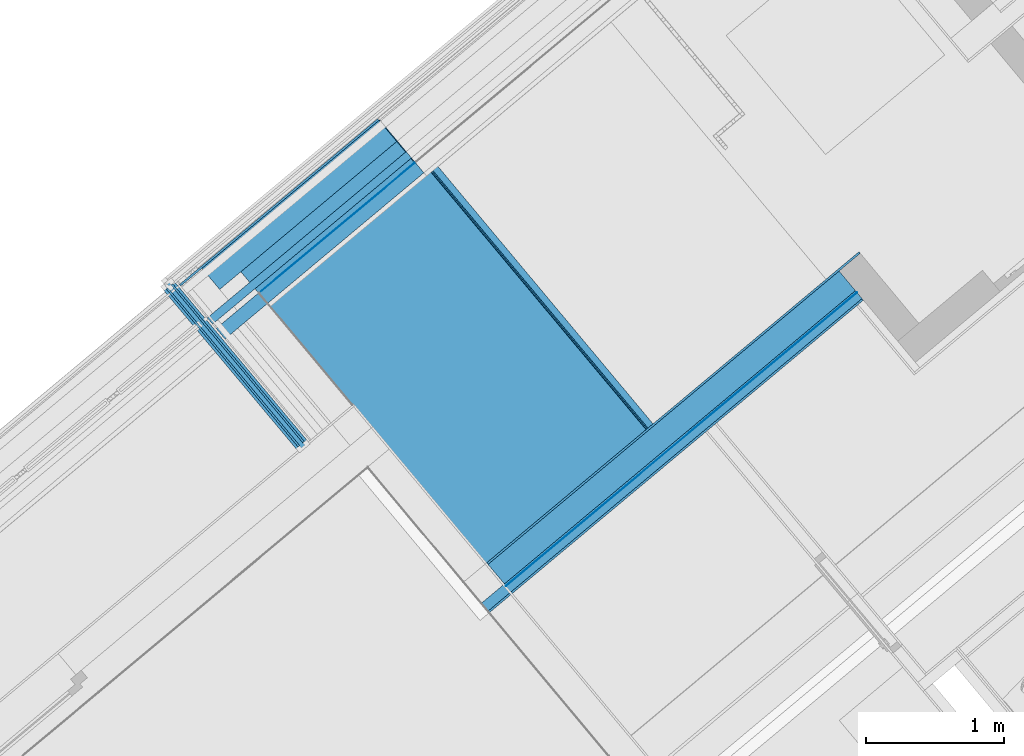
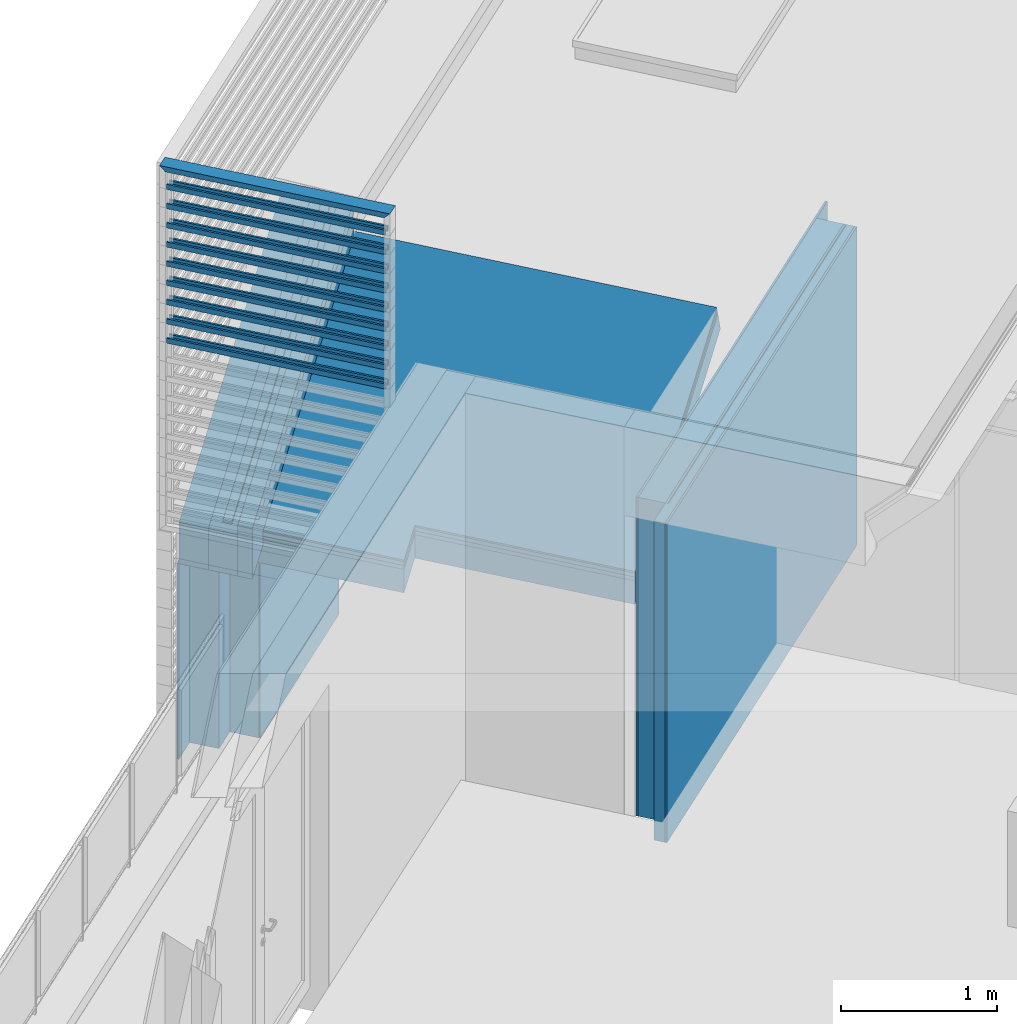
# One storey, part 22 of 50: 27 building element parts, 6 elements without a shape of their own.
"""IFC4 building model written with IfcOpenShell, lengths in metres."""

from ifc_helpers import new_model, entity, si_unit, converted_unit, derived_unit, direction, frame, origin_with_axes, place, context, subcontext, project, spatial, polygons, material, type_object, element, aggregate, save


model = new_model("IFC4")

# Units and contexts
model_context = context("Model", 3, precision=1e-05, world=origin_with_axes(), true_north=direction((0.0, 1.0)))
body_context = subcontext(model_context, "Body", "Model", "MODEL_VIEW")
ifc_project = project(units=[si_unit("LENGTHUNIT", "METRE"), si_unit("AREAUNIT", "SQUARE_METRE"), si_unit("VOLUMEUNIT", "CUBIC_METRE"), converted_unit("PLANEANGLEUNIT", "DEGREE", entity("IfcPlaneAngleMeasure", 0.0174532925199), si_unit("PLANEANGLEUNIT", "RADIAN"), dimensions=[0, 0, 0, 0, 0, 0, 0]), converted_unit("TIMEUNIT", "Year", entity("IfcTimeMeasure", 31556926.0), si_unit("TIMEUNIT", "SECOND"), dimensions=[0, 0, 1, 0, 0, 0, 0]), si_unit("MASSUNIT", "GRAM", prefix="KILO"), si_unit("THERMODYNAMICTEMPERATUREUNIT", "DEGREE_CELSIUS"), si_unit("LUMINOUSINTENSITYUNIT", "LUMEN"), si_unit("ENERGYUNIT", "JOULE", prefix="MEGA"), derived_unit("THERMALCONDUCTANCEUNIT", [(si_unit("POWERUNIT", "WATT"), 1), (si_unit("LENGTHUNIT", "METRE"), -1), (si_unit("THERMODYNAMICTEMPERATUREUNIT", "KELVIN"), -1)]), derived_unit("SPECIFICHEATCAPACITYUNIT", [(si_unit("ENERGYUNIT", "JOULE"), 1), (si_unit("MASSUNIT", "GRAM", prefix="KILO"), -1), (si_unit("THERMODYNAMICTEMPERATUREUNIT", "KELVIN"), -1)]), derived_unit("MASSDENSITYUNIT", [(si_unit("MASSUNIT", "GRAM", prefix="KILO"), 1), (si_unit("VOLUMEUNIT", "CUBIC_METRE"), -1)])], contexts=[model_context])

# Site, building, storey
site_placement = place(None, frame((-0.00153261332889, -0.00661245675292, 0.0), z_axis=(0.0, 0.0, 1.0), x_axis=(1.0, 0.0, 0.0)))
site = spatial("IfcSite", under=ifc_project, at=site_placement, Name="Gelände", CompositionType="ELEMENT")
building_placement = place(site_placement, origin_with_axes())
building = spatial("IfcBuilding", under=site, at=building_placement, Name="Gebäude", CompositionType="ELEMENT")
storey_placement = place(building_placement, frame((0.0, 0.0, 8.66), z_axis=(0.0, 0.0, 1.0), x_axis=(1.0, 0.0, 0.0)))
storey = spatial("IfcBuildingStorey", under=building, at=storey_placement, Name="DG2", CompositionType="ELEMENT", Elevation=8.66)

# Wall, building element parts
wall_type_1 = type_object("IfcWallType", Name="AW DG 220", PredefinedType="NOTDEFINED")
wall_1_placement = place(storey_placement, frame((0.519054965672, 22.8299362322, 0.0), z_axis=(0.0, 0.0, 1.0), x_axis=(-0.767364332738, -0.641211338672, 0.0)))
wall_1 = element("IfcWall", 1, at=wall_1_placement, inside=storey, type_object=wall_type_1, Name="Wand-003", PredefinedType="NOTDEFINED")
ifc_material_1 = material(Name="Zementputz")
building_element_part_1_placement = place(wall_1_placement, origin_with_axes())
building_element_part_1 = element("IfcBuildingElementPart", 2, at=building_element_part_1_placement, material=ifc_material_1, Name="Zementputz", PredefinedType="NOTDEFINED", context=body_context, shape_type="Tessellation", body=[
    polygons([(3.51523287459, 0.22, 0.0), (3.51523287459, 0.215, 0.0), (0.200000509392, 0.215, 0.0), (0.200000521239, 0.22, 0.0), (3.51523287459, 0.22, 2.49), (3.51523287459, 0.215, 2.49), (0.200000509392, 0.215, 2.49), (0.200000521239, 0.22, 2.49)], [[[1, 2, 3, 4]], [[1, 5, 6, 2]], [[2, 6, 7, 3]], [[4, 3, 7, 8]], [[5, 1, 4, 8]], [[6, 5, 8, 7]]], closed=True),
])
ifc_material_2 = material(Name="Stahlbeton Wand")
building_element_part_2_placement = place(wall_1_placement, origin_with_axes())
building_element_part_2 = element("IfcBuildingElementPart", 3, at=building_element_part_2_placement, material=ifc_material_2, Name="Stahlbeton Wand", PredefinedType="NOTDEFINED", context=body_context, shape_type="Tessellation", body=[
    polygons([(3.51523287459, 0.215, 0.0), (3.51523287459, 0.015, 0.0), (0.20000003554, 0.015, 0.0), (0.200000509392, 0.215, 0.0), (3.51523287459, 0.215, 2.49), (3.51523287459, 0.015, 2.49), (0.20000003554, 0.015, 2.49), (0.200000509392, 0.215, 2.49)], [[[1, 2, 3, 4]], [[1, 5, 6, 2]], [[2, 6, 7, 3]], [[4, 3, 7, 8]], [[5, 1, 4, 8]], [[6, 5, 8, 7]]], closed=True),
])
building_element_part_3_placement = place(wall_1_placement, origin_with_axes())
building_element_part_3 = element("IfcBuildingElementPart", 4, at=building_element_part_3_placement, material=ifc_material_1, Name="Zementputz", PredefinedType="NOTDEFINED", context=body_context, shape_type="Tessellation", body=[
    polygons([(3.51523287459, 0.015, 0.0), (3.51523287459, 0.0, 0.0), (0.0, 0.0, 0.0), (3.55389637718e-08, 0.015, 0.0), (3.51523287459, 0.015, 2.49), (3.51523287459, 0.0, 2.49), (0.0, 0.0, 2.49), (3.55389619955e-08, 0.015, 2.49)], [[[1, 2, 3, 4]], [[1, 5, 6, 2]], [[2, 6, 7, 3]], [[4, 3, 7, 8]], [[5, 1, 4, 8]], [[6, 5, 8, 7]]], closed=True),
])
aggregate(wall_1, [building_element_part_1, building_element_part_2, building_element_part_3])

wall_type_2 = type_object("IfcWallType", Name="LB 9,0 cm einfache Vorsatzschale  90", PredefinedType="NOTDEFINED")
wall_2_placement = place(storey_placement, frame((-2.21545317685, 20.284664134, 0.0), z_axis=(0.0, 0.0, 1.0), x_axis=(0.767406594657, 0.641160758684, 0.0)))
wall_2 = element("IfcWall", 5, at=wall_2_placement, inside=storey, type_object=wall_type_2, Name="Wand-006", PredefinedType="NOTDEFINED")
ifc_material_3 = material(Name="Mineralwolle weich")
building_element_part_4_placement = place(wall_2_placement, origin_with_axes())
building_element_part_4 = element("IfcBuildingElementPart", 6, at=building_element_part_4_placement, material=ifc_material_3, Name="Mineralwolle weich", PredefinedType="NOTDEFINED", context=body_context, shape_type="Tessellation", body=[
    polygons([(3.53042564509, -0.075, 2.48999999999), (3.53042087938, 0.0, 2.48999999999), (0.0, 0.0, 2.48999999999), (0.0, -0.075, 2.48999999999), (3.53042564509, -0.075, 0.0), (3.53042087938, 0.0, 0.0), (0.0, 0.0, 0.0), (0.0, -0.075, 0.0)], [[[1, 2, 3, 4]], [[2, 1, 5, 6]], [[2, 6, 7, 3]], [[8, 4, 3, 7]], [[5, 1, 4, 8]], [[6, 5, 8, 7]]], closed=True),
])
ifc_material_4 = material(Name="Gipskarton")
building_element_part_5_placement = place(wall_2_placement, origin_with_axes())
building_element_part_5 = element("IfcBuildingElementPart", 7, at=building_element_part_5_placement, material=ifc_material_4, Name="Gipskarton", PredefinedType="NOTDEFINED", context=body_context, shape_type="Tessellation", body=[
    polygons([(3.53042564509, -0.075, 2.48999999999), (0.0, -0.075, 2.48999999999), (0.0, -0.09, 2.48999999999), (3.53042659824, -0.09, 2.48999999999), (3.53042564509, -0.075, 0.0), (0.0, -0.075, 0.0), (0.0, -0.09, 0.0), (3.53042659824, -0.09, 0.0)], [[[1, 2, 3, 4]], [[5, 6, 2, 1]], [[3, 2, 6, 7]], [[4, 3, 7, 8]], [[4, 8, 5, 1]], [[8, 7, 6, 5]]], closed=True),
])
aggregate(wall_2, [building_element_part_4, building_element_part_5])

# Space
space_1_placement = place(storey_placement, frame((-4.06558748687, 22.1637970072, 0.22), z_axis=(0.0, 0.0, 1.0), x_axis=(-0.767365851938, -0.641209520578, 0.0)))
space_1 = spatial("IfcSpace", under=storey, at=space_1_placement, CompositionType="ELEMENT", PredefinedType="NOTDEFINED")

# Curtain wall, building element parts
curtain_wall_type = type_object("IfcCurtainWallType", Name="Fassadentyp", PredefinedType="NOTDEFINED")
curtain_wall_placement = place(space_1_placement, frame((0.05, 0.162364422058, 1.65), z_axis=(0.0, 0.0, 1.0), x_axis=(-0.767365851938, 0.641209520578, 0.0)))
curtain_wall = element("IfcCurtainWall", 8, at=curtain_wall_placement, inside=space_1, type_object=curtain_wall_type, Name="Fassade-001", PredefinedType="NOTDEFINED")
ifc_material_5 = material(Name="Blech")
building_element_part_6_placement = place(curtain_wall_placement, origin_with_axes())
building_element_part_6 = element("IfcBuildingElementPart", 9, at=building_element_part_6_placement, material=ifc_material_5, Name="Blech", PredefinedType="NOTDEFINED", context=body_context, shape_type="Tessellation", body=[
    polygons([(-0.466268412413, 0.581398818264, 1.45000002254), (-0.466268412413, 0.581398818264, 1.43000002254), (0.489289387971, -0.562162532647, 1.43000002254), (0.489289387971, -0.562162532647, 1.45000002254), (0.489289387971, -0.562162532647, 1.47000002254), (-0.466268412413, 0.581398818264, 1.47000002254), (-0.454757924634, 0.591016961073, 1.47000002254), (-0.454757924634, 0.591016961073, 1.43000002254), (0.50079987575, -0.552544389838, 1.43000002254), (0.50079987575, -0.552544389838, 1.47000002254)], [[[1, 2, 3, 4, 5, 6]], [[2, 1, 6, 7, 8]], [[3, 2, 8, 9]], [[4, 3, 9, 10, 5]], [[5, 10, 7, 6]], [[9, 8, 7, 10]]], closed=True),
    polygons([(0.466268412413, -0.581398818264, 1.43000002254), (0.466268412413, -0.581398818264, 1.45000002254), (0.466268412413, -0.581398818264, 1.47000002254), (0.454757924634, -0.591016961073, 1.47000002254), (0.454757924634, -0.591016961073, 1.43000002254), (-0.489289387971, 0.562162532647, 1.43000002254), (-0.489289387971, 0.562162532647, 1.45000002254), (-0.489289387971, 0.562162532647, 1.47000002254), (-0.500799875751, 0.552544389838, 1.47000002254), (-0.500799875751, 0.552544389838, 1.43000002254)], [[[1, 2, 3, 4, 5]], [[2, 1, 6, 7, 8, 3]], [[8, 9, 4, 3]], [[4, 9, 10, 5]], [[6, 1, 5, 10]], [[7, 6, 10, 9, 8]]], closed=True),
])
building_element_part_7_placement = place(curtain_wall_placement, origin_with_axes())
building_element_part_7 = element("IfcBuildingElementPart", 10, at=building_element_part_7_placement, material=ifc_material_5, Name="Blech", PredefinedType="NOTDEFINED", context=body_context, shape_type="Tessellation", body=[
    polygons([(-0.466268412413, 0.581398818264, 1.60000002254), (-0.466268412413, 0.581398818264, 1.58000002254), (0.489289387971, -0.562162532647, 1.58000002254), (0.489289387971, -0.562162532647, 1.60000002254), (0.489289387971, -0.562162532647, 1.62000002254), (-0.466268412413, 0.581398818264, 1.62000002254), (-0.454757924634, 0.591016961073, 1.62000002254), (-0.454757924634, 0.591016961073, 1.58000002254), (0.50079987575, -0.552544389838, 1.58000002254), (0.50079987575, -0.552544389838, 1.62000002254)], [[[1, 2, 3, 4, 5, 6]], [[2, 1, 6, 7, 8]], [[3, 2, 8, 9]], [[4, 3, 9, 10, 5]], [[5, 10, 7, 6]], [[9, 8, 7, 10]]], closed=True),
    polygons([(0.466268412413, -0.581398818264, 1.58000002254), (0.466268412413, -0.581398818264, 1.60000002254), (0.466268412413, -0.581398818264, 1.62000002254), (0.454757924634, -0.591016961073, 1.62000002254), (0.454757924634, -0.591016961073, 1.58000002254), (-0.489289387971, 0.562162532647, 1.58000002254), (-0.489289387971, 0.562162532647, 1.60000002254), (-0.489289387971, 0.562162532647, 1.62000002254), (-0.500799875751, 0.552544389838, 1.62000002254), (-0.500799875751, 0.552544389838, 1.58000002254)], [[[1, 2, 3, 4, 5]], [[2, 1, 6, 7, 8, 3]], [[8, 9, 4, 3]], [[4, 9, 10, 5]], [[6, 1, 5, 10]], [[7, 6, 10, 9, 8]]], closed=True),
])
building_element_part_8_placement = place(curtain_wall_placement, origin_with_axes())
building_element_part_8 = element("IfcBuildingElementPart", 11, at=building_element_part_8_placement, material=ifc_material_5, Name="Blech", PredefinedType="NOTDEFINED", context=body_context, shape_type="Tessellation", body=[
    polygons([(-0.466268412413, 0.581398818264, 1.75000002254), (-0.466268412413, 0.581398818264, 1.73000002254), (0.489289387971, -0.562162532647, 1.73000002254), (0.489289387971, -0.562162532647, 1.75000002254), (0.489289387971, -0.562162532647, 1.77000002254), (-0.466268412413, 0.581398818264, 1.77000002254), (-0.454757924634, 0.591016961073, 1.77000002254), (-0.454757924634, 0.591016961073, 1.73000002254), (0.50079987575, -0.552544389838, 1.73000002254), (0.50079987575, -0.552544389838, 1.77000002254)], [[[1, 2, 3, 4, 5, 6]], [[2, 1, 6, 7, 8]], [[3, 2, 8, 9]], [[4, 3, 9, 10, 5]], [[5, 10, 7, 6]], [[9, 8, 7, 10]]], closed=True),
    polygons([(0.466268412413, -0.581398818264, 1.73000002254), (0.466268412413, -0.581398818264, 1.75000002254), (0.466268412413, -0.581398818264, 1.77000002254), (0.454757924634, -0.591016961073, 1.77000002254), (0.454757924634, -0.591016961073, 1.73000002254), (-0.489289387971, 0.562162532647, 1.73000002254), (-0.489289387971, 0.562162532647, 1.75000002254), (-0.489289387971, 0.562162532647, 1.77000002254), (-0.500799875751, 0.552544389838, 1.77000002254), (-0.500799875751, 0.552544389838, 1.73000002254)], [[[1, 2, 3, 4, 5]], [[2, 1, 6, 7, 8, 3]], [[8, 9, 4, 3]], [[4, 9, 10, 5]], [[6, 1, 5, 10]], [[7, 6, 10, 9, 8]]], closed=True),
])
building_element_part_9_placement = place(curtain_wall_placement, origin_with_axes())
building_element_part_9 = element("IfcBuildingElementPart", 12, at=building_element_part_9_placement, material=ifc_material_5, Name="Blech", PredefinedType="NOTDEFINED", context=body_context, shape_type="Tessellation", body=[
    polygons([(-0.466268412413, 0.581398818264, 1.90000002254), (-0.466268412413, 0.581398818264, 1.88000002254), (0.489289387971, -0.562162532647, 1.88000002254), (0.489289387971, -0.562162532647, 1.90000002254), (0.489289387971, -0.562162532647, 1.92000002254), (-0.466268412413, 0.581398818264, 1.92000002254), (-0.454757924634, 0.591016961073, 1.92000002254), (-0.454757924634, 0.591016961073, 1.88000002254), (0.50079987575, -0.552544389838, 1.88000002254), (0.50079987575, -0.552544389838, 1.92000002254)], [[[1, 2, 3, 4, 5, 6]], [[2, 1, 6, 7, 8]], [[3, 2, 8, 9]], [[4, 3, 9, 10, 5]], [[5, 10, 7, 6]], [[9, 8, 7, 10]]], closed=True),
    polygons([(0.466268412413, -0.581398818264, 1.88000002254), (0.466268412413, -0.581398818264, 1.90000002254), (0.466268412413, -0.581398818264, 1.92000002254), (0.454757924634, -0.591016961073, 1.92000002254), (0.454757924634, -0.591016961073, 1.88000002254), (-0.489289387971, 0.562162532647, 1.88000002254), (-0.489289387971, 0.562162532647, 1.90000002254), (-0.489289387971, 0.562162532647, 1.92000002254), (-0.500799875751, 0.552544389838, 1.92000002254), (-0.500799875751, 0.552544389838, 1.88000002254)], [[[1, 2, 3, 4, 5]], [[2, 1, 6, 7, 8, 3]], [[8, 9, 4, 3]], [[4, 9, 10, 5]], [[6, 1, 5, 10]], [[7, 6, 10, 9, 8]]], closed=True),
])
building_element_part_10_placement = place(curtain_wall_placement, origin_with_axes())
building_element_part_10 = element("IfcBuildingElementPart", 13, at=building_element_part_10_placement, material=ifc_material_5, Name="Blech", PredefinedType="NOTDEFINED", context=body_context, shape_type="Tessellation", body=[
    polygons([(-0.466268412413, 0.581398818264, 2.05000002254), (-0.466268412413, 0.581398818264, 2.03000002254), (0.489289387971, -0.562162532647, 2.03000002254), (0.489289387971, -0.562162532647, 2.05000002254), (0.489289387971, -0.562162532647, 2.07000002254), (-0.466268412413, 0.581398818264, 2.07000002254), (-0.454757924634, 0.591016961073, 2.07000002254), (-0.454757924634, 0.591016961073, 2.03000002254), (0.50079987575, -0.552544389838, 2.03000002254), (0.50079987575, -0.552544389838, 2.07000002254)], [[[1, 2, 3, 4, 5, 6]], [[2, 1, 6, 7, 8]], [[3, 2, 8, 9]], [[4, 3, 9, 10, 5]], [[5, 10, 7, 6]], [[9, 8, 7, 10]]], closed=True),
    polygons([(0.466268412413, -0.581398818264, 2.03000002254), (0.466268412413, -0.581398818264, 2.05000002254), (0.466268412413, -0.581398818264, 2.07000002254), (0.454757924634, -0.591016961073, 2.07000002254), (0.454757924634, -0.591016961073, 2.03000002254), (-0.489289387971, 0.562162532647, 2.03000002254), (-0.489289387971, 0.562162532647, 2.05000002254), (-0.489289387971, 0.562162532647, 2.07000002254), (-0.500799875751, 0.552544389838, 2.07000002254), (-0.500799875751, 0.552544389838, 2.03000002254)], [[[1, 2, 3, 4, 5]], [[2, 1, 6, 7, 8, 3]], [[8, 9, 4, 3]], [[4, 9, 10, 5]], [[6, 1, 5, 10]], [[7, 6, 10, 9, 8]]], closed=True),
])
building_element_part_11_placement = place(curtain_wall_placement, origin_with_axes())
building_element_part_11 = element("IfcBuildingElementPart", 14, at=building_element_part_11_placement, material=ifc_material_5, Name="Blech", PredefinedType="NOTDEFINED", context=body_context, shape_type="Tessellation", body=[
    polygons([(-0.466268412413, 0.581398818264, 2.20000002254), (-0.466268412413, 0.581398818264, 2.18000002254), (0.489289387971, -0.562162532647, 2.18000002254), (0.489289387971, -0.562162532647, 2.20000002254), (0.489289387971, -0.562162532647, 2.22000002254), (-0.466268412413, 0.581398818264, 2.22000002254), (-0.454757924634, 0.591016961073, 2.22000002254), (-0.454757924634, 0.591016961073, 2.18000002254), (0.50079987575, -0.552544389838, 2.18000002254), (0.50079987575, -0.552544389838, 2.22000002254)], [[[1, 2, 3, 4, 5, 6]], [[2, 1, 6, 7, 8]], [[3, 2, 8, 9]], [[4, 3, 9, 10, 5]], [[5, 10, 7, 6]], [[9, 8, 7, 10]]], closed=True),
    polygons([(0.466268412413, -0.581398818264, 2.18000002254), (0.466268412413, -0.581398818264, 2.20000002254), (0.466268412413, -0.581398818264, 2.22000002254), (0.454757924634, -0.591016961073, 2.22000002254), (0.454757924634, -0.591016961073, 2.18000002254), (-0.489289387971, 0.562162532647, 2.18000002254), (-0.489289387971, 0.562162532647, 2.20000002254), (-0.489289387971, 0.562162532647, 2.22000002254), (-0.500799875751, 0.552544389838, 2.22000002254), (-0.500799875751, 0.552544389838, 2.18000002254)], [[[1, 2, 3, 4, 5]], [[2, 1, 6, 7, 8, 3]], [[8, 9, 4, 3]], [[4, 9, 10, 5]], [[6, 1, 5, 10]], [[7, 6, 10, 9, 8]]], closed=True),
])
building_element_part_12_placement = place(curtain_wall_placement, origin_with_axes())
building_element_part_12 = element("IfcBuildingElementPart", 15, at=building_element_part_12_placement, material=ifc_material_5, Name="Blech", PredefinedType="NOTDEFINED", context=body_context, shape_type="Tessellation", body=[
    polygons([(-0.466268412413, 0.581398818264, 2.35000002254), (-0.466268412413, 0.581398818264, 2.33000002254), (0.489289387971, -0.562162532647, 2.33000002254), (0.489289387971, -0.562162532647, 2.35000002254), (0.489289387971, -0.562162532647, 2.37000002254), (-0.466268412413, 0.581398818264, 2.37000002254), (-0.454757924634, 0.591016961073, 2.37000002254), (-0.454757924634, 0.591016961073, 2.33000002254), (0.50079987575, -0.552544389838, 2.33000002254), (0.50079987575, -0.552544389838, 2.37000002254)], [[[1, 2, 3, 4, 5, 6]], [[2, 1, 6, 7, 8]], [[3, 2, 8, 9]], [[4, 3, 9, 10, 5]], [[5, 10, 7, 6]], [[9, 8, 7, 10]]], closed=True),
    polygons([(0.466268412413, -0.581398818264, 2.33000002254), (0.466268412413, -0.581398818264, 2.35000002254), (0.466268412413, -0.581398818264, 2.37000002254), (0.454757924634, -0.591016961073, 2.37000002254), (0.454757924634, -0.591016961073, 2.33000002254), (-0.489289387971, 0.562162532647, 2.33000002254), (-0.489289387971, 0.562162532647, 2.35000002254), (-0.489289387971, 0.562162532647, 2.37000002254), (-0.500799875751, 0.552544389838, 2.37000002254), (-0.500799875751, 0.552544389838, 2.33000002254)], [[[1, 2, 3, 4, 5]], [[2, 1, 6, 7, 8, 3]], [[8, 9, 4, 3]], [[4, 9, 10, 5]], [[6, 1, 5, 10]], [[7, 6, 10, 9, 8]]], closed=True),
])
building_element_part_13_placement = place(curtain_wall_placement, origin_with_axes())
building_element_part_13 = element("IfcBuildingElementPart", 16, at=building_element_part_13_placement, material=ifc_material_5, Name="Blech", PredefinedType="NOTDEFINED", context=body_context, shape_type="Tessellation", body=[
    polygons([(-0.466268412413, 0.581398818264, 2.50000002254), (-0.466268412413, 0.581398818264, 2.48000002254), (0.489289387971, -0.562162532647, 2.48000002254), (0.489289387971, -0.562162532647, 2.50000002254), (0.489289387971, -0.562162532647, 2.52000002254), (-0.466268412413, 0.581398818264, 2.52000002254), (-0.454757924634, 0.591016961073, 2.52000002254), (-0.454757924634, 0.591016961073, 2.48000002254), (0.50079987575, -0.552544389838, 2.48000002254), (0.50079987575, -0.552544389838, 2.52000002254)], [[[1, 2, 3, 4, 5, 6]], [[2, 1, 6, 7, 8]], [[3, 2, 8, 9]], [[4, 3, 9, 10, 5]], [[5, 10, 7, 6]], [[9, 8, 7, 10]]], closed=True),
    polygons([(0.466268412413, -0.581398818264, 2.48000002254), (0.466268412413, -0.581398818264, 2.50000002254), (0.466268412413, -0.581398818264, 2.52000002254), (0.454757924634, -0.591016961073, 2.52000002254), (0.454757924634, -0.591016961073, 2.48000002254), (-0.489289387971, 0.562162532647, 2.48000002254), (-0.489289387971, 0.562162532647, 2.50000002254), (-0.489289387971, 0.562162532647, 2.52000002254), (-0.500799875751, 0.552544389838, 2.52000002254), (-0.500799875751, 0.552544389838, 2.48000002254)], [[[1, 2, 3, 4, 5]], [[2, 1, 6, 7, 8, 3]], [[8, 9, 4, 3]], [[4, 9, 10, 5]], [[6, 1, 5, 10]], [[7, 6, 10, 9, 8]]], closed=True),
])
building_element_part_14_placement = place(curtain_wall_placement, origin_with_axes())
building_element_part_14 = element("IfcBuildingElementPart", 17, at=building_element_part_14_placement, material=ifc_material_5, Name="Blech", PredefinedType="NOTDEFINED", context=body_context, shape_type="Tessellation", body=[
    polygons([(-0.466268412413, 0.581398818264, 2.65000002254), (-0.466268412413, 0.581398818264, 2.63000002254), (0.489289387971, -0.562162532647, 2.63000002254), (0.489289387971, -0.562162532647, 2.65000002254), (0.489289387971, -0.562162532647, 2.67000002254), (-0.466268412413, 0.581398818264, 2.67000002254), (-0.454757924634, 0.591016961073, 2.67000002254), (-0.454757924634, 0.591016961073, 2.63000002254), (0.50079987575, -0.552544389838, 2.63000002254), (0.50079987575, -0.552544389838, 2.67000002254)], [[[1, 2, 3, 4, 5, 6]], [[2, 1, 6, 7, 8]], [[3, 2, 8, 9]], [[4, 3, 9, 10, 5]], [[5, 10, 7, 6]], [[9, 8, 7, 10]]], closed=True),
    polygons([(0.466268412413, -0.581398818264, 2.63000002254), (0.466268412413, -0.581398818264, 2.65000002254), (0.466268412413, -0.581398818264, 2.67000002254), (0.454757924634, -0.591016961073, 2.67000002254), (0.454757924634, -0.591016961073, 2.63000002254), (-0.489289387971, 0.562162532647, 2.63000002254), (-0.489289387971, 0.562162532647, 2.65000002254), (-0.489289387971, 0.562162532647, 2.67000002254), (-0.500799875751, 0.552544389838, 2.67000002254), (-0.500799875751, 0.552544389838, 2.63000002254)], [[[1, 2, 3, 4, 5]], [[2, 1, 6, 7, 8, 3]], [[8, 9, 4, 3]], [[4, 9, 10, 5]], [[6, 1, 5, 10]], [[7, 6, 10, 9, 8]]], closed=True),
])
building_element_part_15_placement = place(curtain_wall_placement, origin_with_axes())
building_element_part_15 = element("IfcBuildingElementPart", 18, at=building_element_part_15_placement, material=ifc_material_5, Name="Blech", PredefinedType="NOTDEFINED", context=body_context, shape_type="Tessellation", body=[
    polygons([(0.502113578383, -0.577509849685, 2.80000002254), (0.489289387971, -0.562162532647, 2.78000002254), (0.516147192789, -0.539720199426, 2.78000002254), (0.541795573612, -0.570414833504, 2.82000002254), (0.465058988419, -0.634535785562, 2.82000002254), (0.439410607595, -0.603841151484, 2.78000002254), (0.466268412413, -0.581398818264, 2.78000002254), (0.479092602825, -0.596746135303, 2.80000002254), (-0.479092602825, 0.596746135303, 2.80000002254), (-0.466268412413, 0.581398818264, 2.78000002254), (-0.439410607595, 0.603841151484, 2.78000002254), (-0.465058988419, 0.634535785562, 2.82000002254), (-0.541795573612, 0.570414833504, 2.82000002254), (-0.516147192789, 0.539720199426, 2.78000002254), (-0.489289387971, 0.562162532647, 2.78000002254), (-0.502113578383, 0.577509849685, 2.80000002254)], [[[1, 2, 3, 4, 5, 6, 7, 8]], [[1, 9, 10, 2]], [[10, 11, 3, 2]], [[3, 11, 12, 4]], [[4, 12, 13, 5]], [[5, 13, 14, 6]], [[7, 6, 14, 15]], [[15, 16, 8, 7]], [[8, 16, 9, 1]], [[9, 16, 15, 14, 13, 12, 11, 10]]], closed=True),
])
aggregate(curtain_wall, [building_element_part_6, building_element_part_7, building_element_part_8, building_element_part_9, building_element_part_10, building_element_part_11, building_element_part_12, building_element_part_13, building_element_part_14, building_element_part_15])

# Space
space_2_placement = place(storey_placement, frame((0.280300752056, 22.6307267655, 0.22), z_axis=(0.0, 0.0, 1.0), x_axis=(-0.641244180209, 0.767336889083, 0.0)))
space_2 = spatial("IfcSpace", under=storey, at=space_2_placement, CompositionType="ELEMENT", PredefinedType="NOTDEFINED")

# Roof, building element parts
roof_type = type_object("IfcRoofType", Name="Schrägdach Dachaufbau 210", PredefinedType="NOTDEFINED")
roof_placement = place(space_2_placement, frame((2.76113916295, 3.6292358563, 1.15239955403), z_axis=(0.0, 0.0, 1.0), x_axis=(-0.99999999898, 4.51678759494e-05, 0.0)))
roof = element("IfcRoof", 19, at=roof_placement, inside=space_2, type_object=roof_type, Name="Dach-001", PredefinedType="NOTDEFINED")
ifc_material_6 = material(Name="Stehfalz")
building_element_part_16_placement = place(roof_placement, origin_with_axes())
building_element_part_16 = element("IfcBuildingElementPart", 20, at=building_element_part_16_placement, material=ifc_material_6, Name="Stehfalz", PredefinedType="NOTDEFINED", context=body_context, shape_type="Tessellation", body=[
    polygons([(0.201038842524, 1.92976754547, 1.60760044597), (0.200961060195, 0.410074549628, 0.543499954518), (0.200961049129, 0.210074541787, 0.403458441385), (1.26014203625, 0.210074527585, 0.403458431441), (1.26014204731, 0.410074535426, 0.543499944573), (2.76097523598, 0.410074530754, 0.543499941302), (2.76114823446, 1.92976754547, 1.60760044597), (0.201038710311, 1.93292053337, 1.59760044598), (0.200961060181, 0.415810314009, 0.535308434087), (0.200961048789, 0.210074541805, 0.39125069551), (1.26014203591, 0.210074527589, 0.391250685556), (1.26014204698, 0.41007453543, 0.531292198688), (2.76097458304, 0.410074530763, 0.53129219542), (2.76114794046, 1.93292053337, 1.59760044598)], [[[1, 2, 3, 4, 5, 6, 7]], [[1, 8, 9, 2]], [[2, 9, 10, 3]], [[3, 10, 11, 4]], [[4, 11, 12, 5]], [[5, 12, 13, 6]], [[6, 13, 14, 7]], [[7, 14, 8, 1]], [[8, 14, 13, 12, 11, 10, 9]]], closed=True),
])
ifc_material_7 = material(Name="Bauholz")
building_element_part_17_placement = place(roof_placement, origin_with_axes())
building_element_part_17 = element("IfcBuildingElementPart", 21, at=building_element_part_17_placement, material=ifc_material_7, Name="Bauholz", PredefinedType="NOTDEFINED", context=body_context, shape_type="Tessellation", body=[
    polygons([(2.76114794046, 1.93292053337, 1.59760044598), (2.76114720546, 1.94080300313, 1.57260044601), (0.201038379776, 1.94080300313, 1.57260044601), (0.201038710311, 1.93292053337, 1.59760044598), (2.76097458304, 0.410074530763, 0.53129219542), (2.76097295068, 0.410074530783, 0.500772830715), (1.26014204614, 0.410074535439, 0.500772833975), (1.26014203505, 0.210074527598, 0.360731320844), (0.200961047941, 0.21007454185, 0.360731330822), (0.200961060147, 0.430149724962, 0.514829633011), (0.200961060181, 0.415810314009, 0.535308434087), (0.200961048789, 0.210074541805, 0.39125069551), (1.26014203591, 0.210074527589, 0.391250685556), (1.26014204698, 0.41007453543, 0.531292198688)], [[[1, 2, 3, 4]], [[5, 6, 2, 1]], [[3, 2, 6, 7, 8, 9, 10]], [[4, 3, 10, 11]], [[4, 11, 12, 13, 14, 5, 1]], [[14, 7, 6, 5]], [[13, 8, 7, 14]], [[12, 9, 8, 13]], [[11, 10, 9, 12]]], closed=True),
])
ifc_material_8 = material(Name="Luftschicht horizontal")
building_element_part_18_placement = place(roof_placement, origin_with_axes())
building_element_part_18 = element("IfcBuildingElementPart", 22, at=building_element_part_18_placement, material=ifc_material_8, Name="Luftschicht horizontal", PredefinedType="NOTDEFINED", context=body_context, shape_type="Tessellation", body=[
    polygons([(2.76114720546, 1.94080300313, 1.57260044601), (2.76114647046, 1.94868547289, 1.54760044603), (0.201038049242, 1.94868547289, 1.54760044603), (0.201038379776, 1.94080300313, 1.57260044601), (2.76097295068, 0.410074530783, 0.500772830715), (2.76097131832, 0.410074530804, 0.470253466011), (1.26014204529, 0.410074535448, 0.470253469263), (1.2601420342, 0.210074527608, 0.330211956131), (0.200961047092, 0.210074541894, 0.330211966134), (0.200961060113, 0.444489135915, 0.494350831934), (0.200961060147, 0.430149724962, 0.514829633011), (0.200961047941, 0.21007454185, 0.360731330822), (1.26014203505, 0.210074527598, 0.360731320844), (1.26014204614, 0.410074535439, 0.500772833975)], [[[1, 2, 3, 4]], [[5, 6, 2, 1]], [[3, 2, 6, 7, 8, 9, 10]], [[4, 3, 10, 11]], [[4, 11, 12, 13, 14, 5, 1]], [[14, 7, 6, 5]], [[13, 8, 7, 14]], [[12, 9, 8, 13]], [[11, 10, 9, 12]]], closed=True),
])
ifc_material_9 = material(Name="EPS 1")
building_element_part_19_placement = place(roof_placement, origin_with_axes())
building_element_part_19 = element("IfcBuildingElementPart", 23, at=building_element_part_19_placement, material=ifc_material_9, Name="EPS 1", PredefinedType="NOTDEFINED", context=body_context, shape_type="Tessellation", body=[
    polygons([(2.76114647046, 1.94868547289, 1.54760044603), (2.76114206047, 1.99598029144, 1.39760044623), (0.201036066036, 1.99598029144, 1.39760044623), (0.201038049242, 1.94868547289, 1.54760044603), (2.76097131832, 0.410074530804, 0.470253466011), (2.76096152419, 0.410074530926, 0.287137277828), (1.26014204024, 0.410074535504, 0.287137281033), (1.26014202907, 0.210074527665, 0.147095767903), (0.200961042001, 0.21007454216, 0.147095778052), (0.200961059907, 0.530525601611, 0.371478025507), (0.200961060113, 0.444489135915, 0.494350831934), (0.200961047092, 0.210074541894, 0.330211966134), (1.2601420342, 0.210074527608, 0.330211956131), (1.26014204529, 0.410074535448, 0.470253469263)], [[[1, 2, 3, 4]], [[5, 6, 2, 1]], [[2, 6, 7, 8, 9, 10, 3]], [[4, 3, 10, 11]], [[4, 11, 12, 13, 14, 5, 1]], [[14, 7, 6, 5]], [[13, 8, 7, 14]], [[12, 9, 8, 13]], [[11, 10, 9, 12]]], closed=True),
])
aggregate(roof, [building_element_part_16, building_element_part_17, building_element_part_18, building_element_part_19])

# Wall, building element parts
wall_type_3 = type_object("IfcWallType", Name="AW EG 420", PredefinedType="NOTDEFINED")
wall_3_placement = place(space_2_placement, frame((2.97553500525, 3.63415164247, -0.22), z_axis=(0.0, 0.0, 1.0), x_axis=(-4.51678713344e-05, -0.99999999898, 0.0)))
wall_3 = element("IfcWall", 24, at=wall_3_placement, inside=space_2, type_object=wall_type_3, Name="Wand-002", PredefinedType="NOTDEFINED")
building_element_part_20_placement = place(wall_3_placement, origin_with_axes())
building_element_part_20 = element("IfcBuildingElementPart", 25, at=building_element_part_20_placement, material=ifc_material_1, Name="Zementputz", PredefinedType="NOTDEFINED", context=body_context, shape_type="Tessellation", body=[
    polygons([(1.88733282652, -1.12695417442e-07, 1.62230824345), (1.88733282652, -0.0150001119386, 1.62230824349), (1.88733282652, -0.015, 0.0), (1.88733282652, 0.0, 0.0), (0.0150000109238, -0.0150000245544, 1.52838807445), (0.0150000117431, -1.04215018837e-08, 1.52838807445), (0.0149999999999, -0.015, 0.0), (0.015, 0.0, 0.0)], [[[1, 2, 3, 4]], [[5, 2, 1, 6]], [[2, 5, 7, 3]], [[8, 4, 3, 7]], [[6, 1, 4, 8]], [[5, 6, 8, 7]]], closed=True),
])
building_element_part_21_placement = place(wall_3_placement, origin_with_axes())
building_element_part_21 = element("IfcBuildingElementPart", 26, at=building_element_part_21_placement, material=ifc_material_9, Name="EPS 1", PredefinedType="NOTDEFINED", context=body_context, shape_type="Tessellation", body=[
    polygons([(1.88733282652, -0.0150001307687, 1.62230824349), (1.88733282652, -0.215000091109, 1.62230824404), (1.88733282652, -0.215, 0.0), (1.88733282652, -0.015, 0.0), (0.214999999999, -0.21499999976, 1.53842049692), (0.215, -0.0150000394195, 1.53842049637), (0.214999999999, -0.215, 0.0), (0.215, -0.015, 0.0)], [[[1, 2, 3, 4]], [[5, 2, 1, 6]], [[2, 5, 7, 3]], [[8, 4, 3, 7]], [[6, 1, 4, 8]], [[5, 6, 8, 7]]], closed=True),
])
building_element_part_22_placement = place(wall_3_placement, origin_with_axes())
building_element_part_22 = element("IfcBuildingElementPart", 27, at=building_element_part_22_placement, material=ifc_material_2, Name="Stahlbeton Wand", PredefinedType="NOTDEFINED", context=body_context, shape_type="Tessellation", body=[
    polygons([(1.88733282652, -0.215000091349, 1.62230824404), (1.88733282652, -0.415000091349, 1.62230824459), (1.88733282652, -0.415, 0.0), (1.88733282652, -0.215, 0.0), (0.414999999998, -0.415000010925, 1.54845291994), (0.414999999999, -0.215000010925, 1.54845291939), (0.414999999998, -0.415, 0.0), (0.414999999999, -0.215, 0.0)], [[[1, 2, 3, 4]], [[5, 2, 1, 6]], [[2, 5, 7, 3]], [[8, 4, 3, 7]], [[6, 1, 4, 8]], [[5, 6, 8, 7]]], closed=True),
])
building_element_part_23_placement = place(wall_3_placement, origin_with_axes())
building_element_part_23 = element("IfcBuildingElementPart", 28, at=building_element_part_23_placement, material=ifc_material_1, Name="Zementputz", PredefinedType="NOTDEFINED", context=body_context, shape_type="Tessellation", body=[
    polygons([(0.419999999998, -0.42, 1.66399832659), (1.88733282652, -0.42, 1.66399832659), (1.88733282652, -0.415, 1.66399832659), (0.419999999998, -0.415, 1.66399832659), (0.419999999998, -0.42, 0.0), (1.88733282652, -0.42, 0.0), (1.88733282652, -0.415, 0.0), (0.419999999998, -0.415, 0.0)], [[[1, 2, 3, 4]], [[5, 6, 2, 1]], [[3, 2, 6, 7]], [[4, 3, 7, 8]], [[5, 1, 4, 8]], [[8, 7, 6, 5]]], closed=True),
])
aggregate(wall_3, [building_element_part_20, building_element_part_21, building_element_part_22, building_element_part_23])

wall_type_4 = type_object("IfcWallType", Name="Bauteil - Attika 574 x 1710", PredefinedType="NOTDEFINED")
wall_4_placement = place(space_2_placement, frame((2.76053433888, 3.61916135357, 1.02009396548), z_axis=(0.0, 0.0, 1.0), x_axis=(-0.999999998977, 4.52224951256e-05, 0.0)))
wall_4 = element("IfcWall", 29, at=wall_4_placement, inside=space_2, type_object=wall_type_4, Name="Träger-001", PredefinedType="NOTDEFINED")
ifc_material_10 = material(Name="Stahlbeton Wand Garage")
building_element_part_24_placement = place(wall_4_placement, origin_with_axes())
building_element_part_24 = element("IfcBuildingElementPart", 30, at=building_element_part_24_placement, material=ifc_material_10, Name="Stahlbeton Wand Garage", PredefinedType="NOTDEFINED", context=body_context, shape_type="Tessellation", body=[
    polygons([(0.0, 0.0, 0.610387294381), (0.2, 0.0, 0.610387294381), (0.2, 1.87834618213, 1.92561945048), (0.0, 1.87834618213, 1.92561945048), (0.2, 0.0, 0.288294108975), (0.0, 0.0, 0.288294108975), (0.2, 1.87834618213, 0.382515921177), (0.0, 1.87834618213, 0.382515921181)], [[[1, 2, 3, 4]], [[5, 2, 1, 6]], [[2, 5, 7, 3]], [[4, 3, 7, 8]], [[6, 1, 4, 8]], [[5, 6, 8, 7]]], closed=True),
])
building_element_part_25_placement = place(wall_4_placement, origin_with_axes())
building_element_part_25 = element("IfcBuildingElementPart", 31, at=building_element_part_25_placement, material=ifc_material_9, Name="EPS 1", PredefinedType="NOTDEFINED", context=body_context, shape_type="Tessellation", body=[
    polygons([(-0.19999996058, 1.87834618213, 1.9256194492), (-0.19999996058, 1.87834618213, 0.382515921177), (-0.19999996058, 0.0, 0.288294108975), (-0.19999996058, 0.0, 0.610387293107), (-2.39911202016e-10, 1.87834618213, 1.9256194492), (-2.39911202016e-10, 1.87834618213, 0.382515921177), (-2.39911202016e-10, 0.0, 0.288294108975), (-2.39911202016e-10, 0.0, 0.610387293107)], [[[1, 2, 3, 4]], [[5, 6, 2, 1]], [[2, 6, 7, 3]], [[3, 7, 8, 4]], [[5, 1, 4, 8]], [[6, 5, 8, 7]]], closed=True),
])
building_element_part_26_placement = place(wall_4_placement, origin_with_axes())
building_element_part_26 = element("IfcBuildingElementPart", 32, at=building_element_part_26_placement, material=ifc_material_9, Name="EPS 1", PredefinedType="NOTDEFINED", context=body_context, shape_type="Tessellation", body=[
    polygons([(0.2, 1.87834618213, 1.99886592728), (0.2, 1.87834618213, 1.60211418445), (0.2, 0.0, 0.286882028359), (0.2, 0.0, 0.683633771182), (0.3, 1.87834618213, 1.99886592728), (0.3, 1.87834618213, 1.60211418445), (0.3, 0.0, 0.286882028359), (0.3, 0.0, 0.683633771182)], [[[1, 2, 3, 4]], [[5, 6, 2, 1]], [[2, 6, 7, 3]], [[3, 7, 8, 4]], [[5, 1, 4, 8]], [[6, 5, 8, 7]]], closed=True),
])
ifc_material_11 = material(Name="Vollholz")
building_element_part_27_placement = place(wall_4_placement, origin_with_axes())
building_element_part_27 = element("IfcBuildingElementPart", 33, at=building_element_part_27_placement, material=ifc_material_11, Name="Vollholz", PredefinedType="NOTDEFINED", context=body_context, shape_type="Tessellation", body=[
    polygons([(0.1, 1.87834618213, 1.99886592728), (0.16, 1.87834618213, 1.99886592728), (0.16, 0.0, 0.683633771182), (0.1, 0.0, 0.683633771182), (0.1, 1.87834618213, 2.01837359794), (0.160110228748, 1.87834618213, 2.01581107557), (0.160110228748, 0.0, 0.700578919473), (0.1, 0.0, 0.703141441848)], [[[1, 2, 3, 4]], [[5, 6, 2, 1]], [[2, 6, 7, 3]], [[3, 7, 8, 4]], [[5, 1, 4, 8]], [[6, 5, 8, 7]]], closed=True),
])
aggregate(wall_4, [building_element_part_24, building_element_part_25, building_element_part_26, building_element_part_27])

save(model, "model.ifc")
